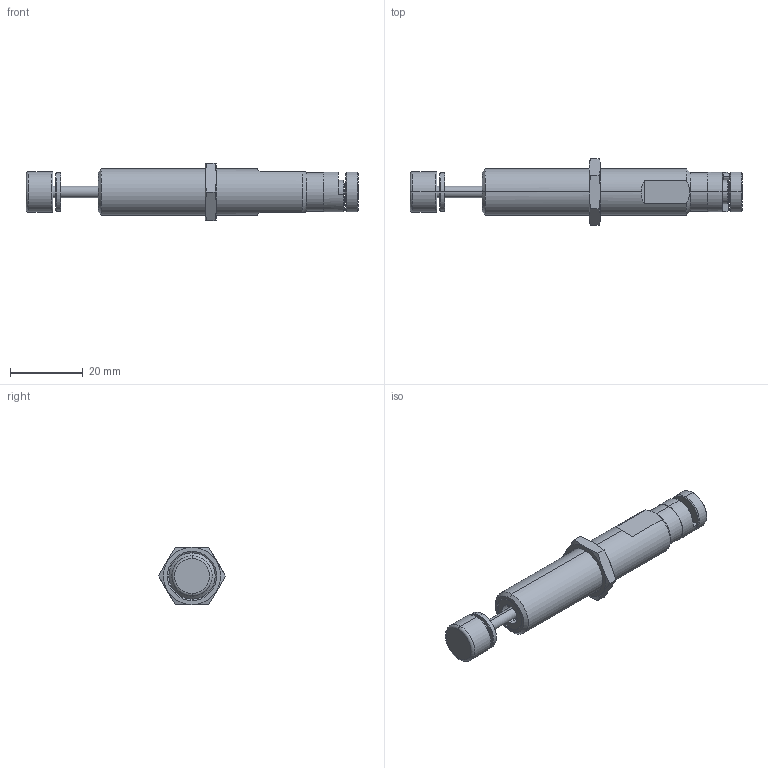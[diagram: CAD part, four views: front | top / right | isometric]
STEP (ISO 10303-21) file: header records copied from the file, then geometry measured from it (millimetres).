
FILE_DESCRIPTION (( 'STEP AP203' ), '1' );
FILE_NAME ('ECO (LR) OEM .25B.STEP', '2015-04-16T12:29:36', ( 'ITT' ), ( 'ITT' ), 'SwSTEP 2.0', 'SolidWorks 2011', '' );
FILE_SCHEMA (( 'CONFIG_CONTROL_DESIGN' ));
Length unit declared in the file: inch
Products named in the file (1): ECO (LR) OEM .25B
Bounding box: 91.04 x 18.33 x 15.88 mm (x, y, z)
Surface area: 4623 mm2 (no closed solid volume)
Topology: 0 solids, 14 shells, 98 faces, 254 edges, 170 vertices
Faces by surface type: plane 35, cone 29, cylinder 24, torus 10
Entity records: 3219 total; most frequent: CARTESIAN_POINT 709, DIRECTION 549, ORIENTED_EDGE 444, EDGE_CURVE 254, AXIS2_PLACEMENT_3D 226, VERTEX_POINT 170, CIRCLE 127, EDGE_LOOP 114
